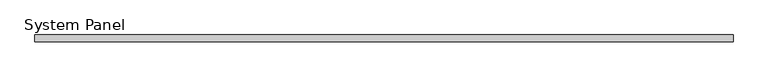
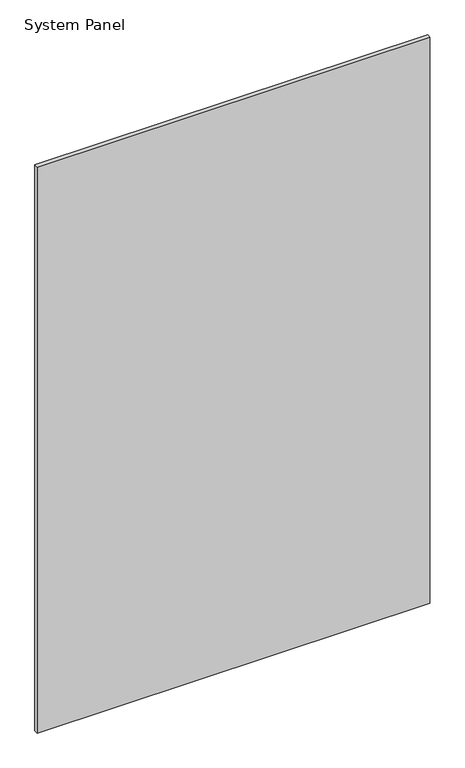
"""IFC4 building model written with IfcOpenShell, lengths in millimetres: plate geometry, System Panel : стекло_смещение_0."""

import ifcopenshell
import ifcopenshell.guid

model = None  # the IFC model being written
_history = None  # IfcOwnerHistory: only IFC2X3 demands one
_inside = {}  # id of a spatial element -> (the spatial element, [elements in it])
_under = {}  # id of a project, library or spatial element -> (it, [spatial elements below it])
_declared = {}  # id of a project -> (the project, [libraries it declares])
_typed = {}  # id of a type object -> (the type object, [elements of that type])
_made_of = {}  # id of a material, layer set ... -> (it, [elements and type objects made of it])


def new_model(schema):
    """Start an empty IFC model of exactly this schema.

    Asked for "IFC4X3", IfcOpenShell would pick the latest addendum, in which some entities
    have other attributes; the version numbers below select the first issue.
    IFC2X3 requires an IfcOwnerHistory on every rooted entity: one is made here for all.
    """
    global model, _history
    if schema == "IFC4X3":
        model = ifcopenshell.file(schema_version=(4, 3, 0, 0))
    else:
        model = ifcopenshell.file(schema=schema)
    _inside.clear()
    _under.clear()
    _declared.clear()
    _typed.clear()
    _made_of.clear()
    _history = None
    if model.schema == "IFC2X3":
        org = make("IfcOrganization", Name="unknown")
        user = make(
            "IfcPersonAndOrganization",
            ThePerson=make("IfcPerson", FamilyName="unknown"),
            TheOrganization=org,
        )
        app = make(
            "IfcApplication",
            ApplicationDeveloper=org,
            Version="unknown",
            ApplicationFullName="unknown",
            ApplicationIdentifier="unknown",
        )
        _history = make(
            "IfcOwnerHistory",
            OwningUser=user,
            OwningApplication=app,
            ChangeAction="ADDED",
            CreationDate=0,
        )
    return model


def make(cls, **values):
    """One entity of the class cls with the attributes given. An attribute that is None is left unset."""
    return model.create_entity(
        cls, **{name: value for name, value in values.items() if value is not None}
    )


def rooted(cls, **values):
    """An entity with a GlobalId (a new one), such as an element, a storey or a relation."""
    return make(cls, GlobalId=ifcopenshell.guid.new(), OwnerHistory=_history, **values)


def si_unit(unit_type, name, prefix=None):
    """IfcSIUnit, for example si_unit("LENGTHUNIT", "METRE", prefix="MILLI")."""
    return make("IfcSIUnit", UnitType=unit_type, Prefix=prefix, Name=name)


def assignment(units):
    """IfcUnitAssignment: the units of a project."""
    return None if units is None else make("IfcUnitAssignment", Units=units)


def point(xyz):
    """IfcCartesianPoint."""
    return None if xyz is None else make("IfcCartesianPoint", Coordinates=xyz)


def direction(xyz):
    """IfcDirection."""
    return None if xyz is None else make("IfcDirection", DirectionRatios=xyz)


def frame(location, z_axis=None, x_axis=None):
    """IfcAxis2Placement3D, a coordinate frame: its origin and axes. An axis left out is left unset."""
    return make(
        "IfcAxis2Placement3D",
        Location=point(location),
        Axis=direction(z_axis),
        RefDirection=direction(x_axis),
    )


def origin():
    """The frame at (0, 0, 0) with its axes left unset."""
    return frame((0.0, 0.0, 0.0))


def origin_with_axes():
    """The frame at (0, 0, 0) with the z axis (0, 0, 1) and the x axis (1, 0, 0) written out."""
    return frame((0.0, 0.0, 0.0), z_axis=(0.0, 0.0, 1.0), x_axis=(1.0, 0.0, 0.0))


def place(relative_to, where):
    """IfcLocalPlacement: puts the frame where relative to a parent placement (None: the world)."""
    return make(
        "IfcLocalPlacement", PlacementRelTo=relative_to, RelativePlacement=where
    )


def context(
    kind, dimensions, precision=None, world=None, true_north=None, identifier=None
):
    """IfcGeometricRepresentationContext, for example the 3D "Model" context."""
    return make(
        "IfcGeometricRepresentationContext",
        ContextIdentifier=identifier,
        ContextType=kind,
        CoordinateSpaceDimension=dimensions,
        Precision=precision,
        WorldCoordinateSystem=world,
        TrueNorth=true_north,
    )


def project(units=None, contexts=None):
    """IfcProject with its units and contexts."""
    return rooted(
        "IfcProject",
        Name="project",
        RepresentationContexts=contexts,
        UnitsInContext=assignment(units),
    )


def spatial(cls, under=None, at=None, **own):
    """A site, building, storey or space (cls), placed at a placement, below another one or the project."""
    s = rooted(cls, ObjectPlacement=at, **own)
    if under is not None:
        _under.setdefault(under.id(), (under, []))[1].append(s)
    return s


def polyline(points):
    """IfcPolyline through the points."""
    return make("IfcPolyline", Points=[point(p) for p in points])


def outline(outer, holes=None, kind="AREA"):
    """IfcArbitraryClosedProfileDef: a profile drawn as a closed curve; with holes, ...WithVoids."""
    if holes is None:
        return make("IfcArbitraryClosedProfileDef", ProfileType=kind, OuterCurve=outer)
    return make(
        "IfcArbitraryProfileDefWithVoids",
        ProfileType=kind,
        OuterCurve=outer,
        InnerCurves=holes,
    )


def extrude(swept, where, along, depth):
    """IfcExtrudedAreaSolid: the profile swept, set in the frame where, extruded along a direction by depth."""
    return make(
        "IfcExtrudedAreaSolid",
        SweptArea=swept,
        Position=where,
        ExtrudedDirection=direction(along),
        Depth=depth,
    )


def shape(context_of_items, identifier, shape_type, items):
    """IfcShapeRepresentation: the items that make up one representation, for example the "Body"."""
    return make(
        "IfcShapeRepresentation",
        ContextOfItems=context_of_items,
        RepresentationIdentifier=identifier,
        RepresentationType=shape_type,
        Items=items,
    )


def source(mapping_origin, context_of_items, identifier, shape_type, items):
    """IfcRepresentationMap: a shape defined once, which mapped items show again and again."""
    return make(
        "IfcRepresentationMap",
        MappingOrigin=mapping_origin,
        MappedRepresentation=shape(context_of_items, identifier, shape_type, items),
    )


def transform(
    local_origin,
    x_axis=None,
    y_axis=None,
    z_axis=None,
    scale=None,
    scale2=None,
    scale3=None,
    uniform=True,
):
    """IfcCartesianTransformationOperator3D, or its non-uniform kind. x_axis, y_axis, z_axis: its Axis1, 2, 3."""
    if uniform:
        return make(
            "IfcCartesianTransformationOperator3D",
            Axis1=direction(x_axis),
            Axis2=direction(y_axis),
            LocalOrigin=point(local_origin),
            Scale=scale,
            Axis3=direction(z_axis),
        )
    return make(
        "IfcCartesianTransformationOperator3DnonUniform",
        Axis1=direction(x_axis),
        Axis2=direction(y_axis),
        LocalOrigin=point(local_origin),
        Scale=scale,
        Axis3=direction(z_axis),
        Scale2=scale2,
        Scale3=scale3,
    )


def mapped(mapping_source, mapping_target):
    """IfcMappedItem: shows the shape of a source again, moved by a transform."""
    return make(
        "IfcMappedItem", MappingSource=mapping_source, MappingTarget=mapping_target
    )


def made_of(thing, what):
    """Note that an element or type object is made of a material, layer set ...; save() writes the relation."""
    if what is not None:
        _made_of.setdefault(what.id(), (what, []))[1].append(thing)
    return thing


def element(
    cls,
    number,
    at=None,
    inside=None,
    cuts=None,
    type_object=None,
    material=None,
    context=None,
    identifier="Body",
    shape_type=None,
    held_by="IfcProductDefinitionShape",
    body=None,
    shapes=None,
    **own,
):
    """One element of the class cls, such as IfcWall. Its Tag is "e" and its number.

    at: its placement. inside: the storey or other place that contains it. cuts: it is an
    opening in that element (IfcRelVoidsElement). A single representation is given by context,
    identifier, shape_type and body (its items); several are given by shapes. held_by: the class
    of the entity that holds the representations. save() writes the other relations.
    """
    e = rooted(cls, Tag="e%d" % number, ObjectPlacement=at, **own)
    if body is not None:
        shapes = [shape(context, identifier, shape_type, body)]
    if shapes is not None:
        e.Representation = make(held_by, Representations=shapes)
    if inside is not None:
        _inside.setdefault(inside.id(), (inside, []))[1].append(e)
    if cuts is not None:
        rooted(
            "IfcRelVoidsElement", RelatingBuildingElement=cuts, RelatedOpeningElement=e
        )
    if type_object is not None:
        _typed.setdefault(type_object.id(), (type_object, []))[1].append(e)
    return made_of(e, material)


def aggregate(whole, parts):
    """IfcRelAggregates: a whole, such as a stair, and the parts it consists of."""
    return rooted("IfcRelAggregates", RelatingObject=whole, RelatedObjects=parts)


def save(model, path):
    """Write the relations noted so far, then the file.

    IfcRelAggregates (storeys below a building ...), IfcRelContainedInSpatialStructure (elements
    in a storey), IfcRelDefinesByType, IfcRelAssociatesMaterial and IfcRelDeclares: one each for
    every whole, place, type object, material and project.
    """
    for whole, parts in _under.values():
        aggregate(whole, parts)
    for where, things in _inside.values():
        rooted(
            "IfcRelContainedInSpatialStructure",
            RelatedElements=things,
            RelatingStructure=where,
        )
    for kind, things in _typed.values():
        rooted("IfcRelDefinesByType", RelatedObjects=things, RelatingType=kind)
    for what, things in _made_of.values():
        rooted("IfcRelAssociatesMaterial", RelatedObjects=things, RelatingMaterial=what)
    for by, libraries in _declared.values():
        rooted("IfcRelDeclares", RelatingContext=by, RelatedDefinitions=libraries)
    model.write(path)


def system_panel_097f168f(model_context):
    return source(origin(), model_context, "Body", "SweptSolid", [
        extrude(outline(polyline([(525.0, -5.0), (-525.0, -5.0), (-525.0, 5.0), (525.0, 5.0), (525.0, -5.0)])), origin_with_axes(), (0.0, 0.0, 1.0), 1600.0),
    ])


if __name__ == "__main__":
    model = new_model("IFC4")
    model_context = context("Model", 3, world=origin())
    ifc_project = project(units=[si_unit("LENGTHUNIT", "METRE", prefix="MILLI")], contexts=[model_context])
    site = spatial("IfcSite", under=ifc_project)
    building = spatial("IfcBuilding", under=site)
    placement = place(None, origin())
    system_panel_shape = system_panel_097f168f(model_context)
    element("IfcPlate", 1, ObjectType="System Panel : стекло_смещение_0", at=placement, inside=building, context=model_context, shape_type="MappedRepresentation", body=[
        mapped(system_panel_shape, transform((0.0, 0.0, 0.0), x_axis=(1.0, 0.0, 0.0), y_axis=(0.0, 1.0, 0.0), z_axis=(0.0, 0.0, 1.0))),
    ])
    save(model, "model.ifc")
